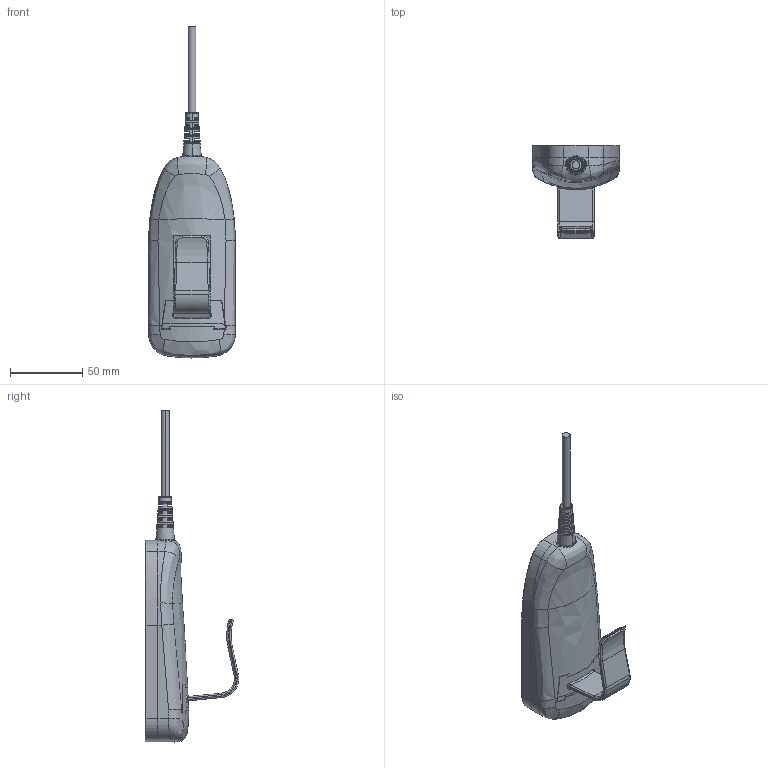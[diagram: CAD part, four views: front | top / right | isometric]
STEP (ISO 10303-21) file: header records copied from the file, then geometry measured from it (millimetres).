
FILE_DESCRIPTION (( 'STEP AP203' ), '1' );
FILE_NAME ('hs201.STEP', '2026-03-30T01:36:25', ( '' ), ( '' ), 'SwSTEP 2.0', 'SolidWorks 2023', '' );
FILE_SCHEMA (( 'CONFIG_CONTROL_DESIGN' ));
Length unit declared in the file: millimetre
Products named in the file (1): hs201
Bounding box: 60 x 64.75 x 230 mm (x, y, z)
Surface area: 39468.9 mm2 (no closed solid volume)
Topology: 0 solids, 10 shells, 369 faces, 1140 edges, 783 vertices
Faces by surface type: cylinder 129, plane 100, torus 72, bspline 66, cone 2
Entity records: 18941 total; most frequent: CARTESIAN_POINT 9546, ORIENTED_EDGE 1976, DIRECTION 1747, EDGE_CURVE 1139, VERTEX_POINT 783, AXIS2_PLACEMENT_3D 694, EDGE_LOOP 407, CIRCLE 390
